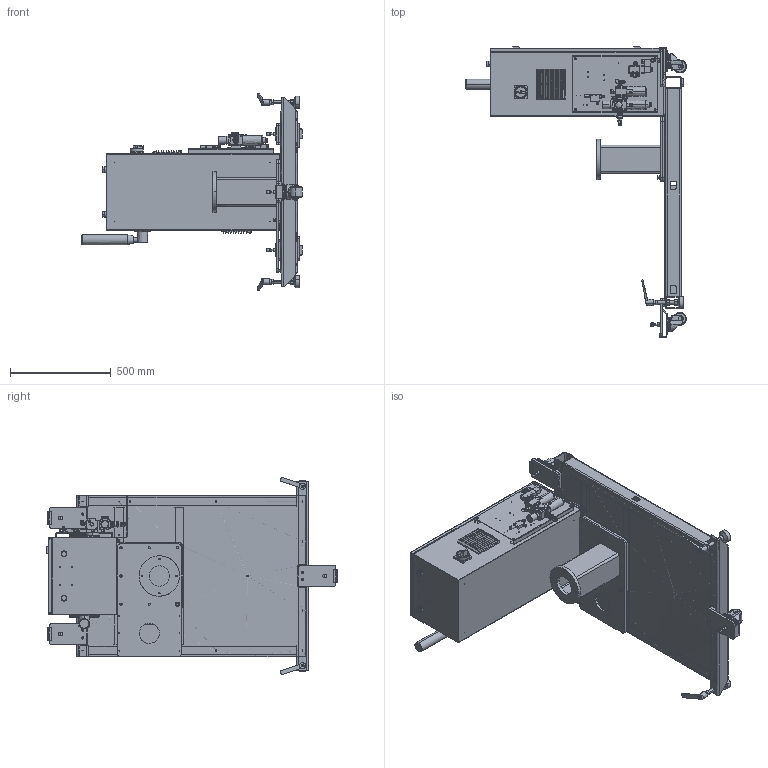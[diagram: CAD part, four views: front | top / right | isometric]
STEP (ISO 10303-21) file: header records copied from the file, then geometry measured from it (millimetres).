
FILE_DESCRIPTION (( 'STEP AP203' ), '1' );
FILE_NAME ('生态套件-分拣工作站-分拣工作站本体.STEP', '2024-11-08T09:13:39', ( '' ), ( '' ), 'SwSTEP 2.0', 'SolidWorks 2018', '' );
FILE_SCHEMA (( 'CONFIG_CONTROL_DESIGN' ));
Length unit declared in the file: millimetre
Products named in the file (1): 生态套件-分拣工作站-分拣工作站本体
Bounding box: 1094.06 x 1441.89 x 981 mm (x, y, z)
Surface area: 9274043.6 mm2 (no closed solid volume)
Topology: 0 solids, 182 shells, 2054 faces, 8515 edges, 6314 vertices
Faces by surface type: bspline 2054
Entity records: 135864 total; most frequent: CARTESIAN_POINT 92943, ORIENTED_EDGE 12276, EDGE_CURVE 8422, B_SPLINE_CURVE_WITH_KNOTS 7324, VERTEX_POINT 6303, EDGE_LOOP 2655, FACE_OUTER_BOUND 2055, ADVANCED_FACE 2054
